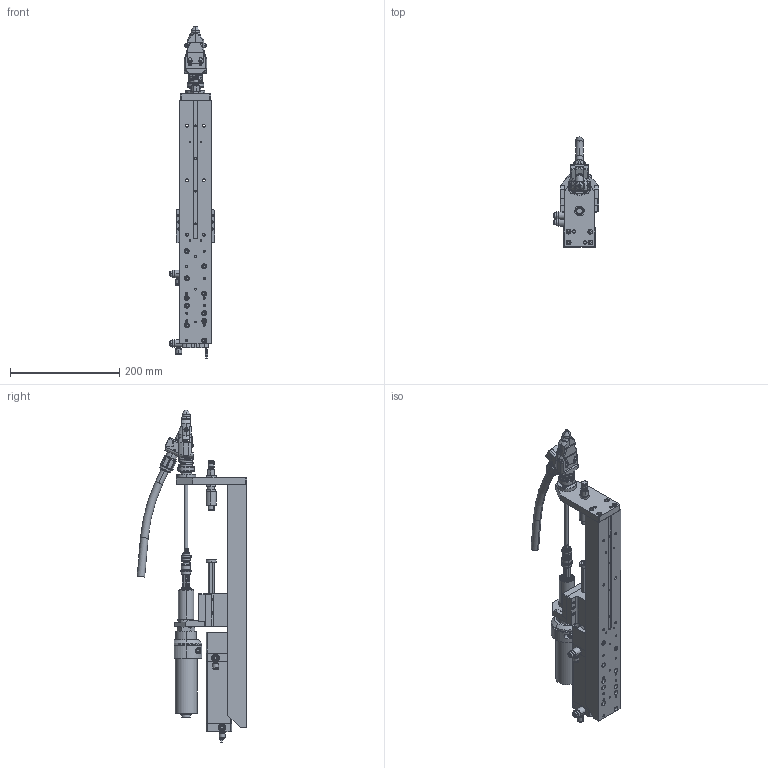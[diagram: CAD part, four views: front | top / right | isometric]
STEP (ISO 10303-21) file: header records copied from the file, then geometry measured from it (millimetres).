
FILE_DESCRIPTION (( 'STEP AP214' ), '1' );
FILE_NAME ('S1AV.STEP', '2026-02-02T15:35:48', ( '' ), ( '' ), 'SwSTEP 2.0', 'SolidWorks 2022', '' );
FILE_SCHEMA (( 'AUTOMOTIVE_DESIGN' ));
Length unit declared in the file: millimetre
Products named in the file (1): S1AV
Bounding box: 82.66 x 201.37 x 609 mm (x, y, z)
Surface area: 342996.5 mm2 (no closed solid volume)
Topology: 0 solids, 146 shells, 1673 faces, 5991 edges, 4365 vertices
Faces by surface type: plane 752, cylinder 602, cone 267, bspline 28, torus 22, sphere 2
Entity records: 90631 total; most frequent: CARTESIAN_POINT 21632, DIRECTION 10708, ORIENTED_EDGE 9239, EDGE_CURVE 5982, VERTEX_POINT 4362, AXIS2_PLACEMENT_3D 3910, LINE 2888, VECTOR 2888
